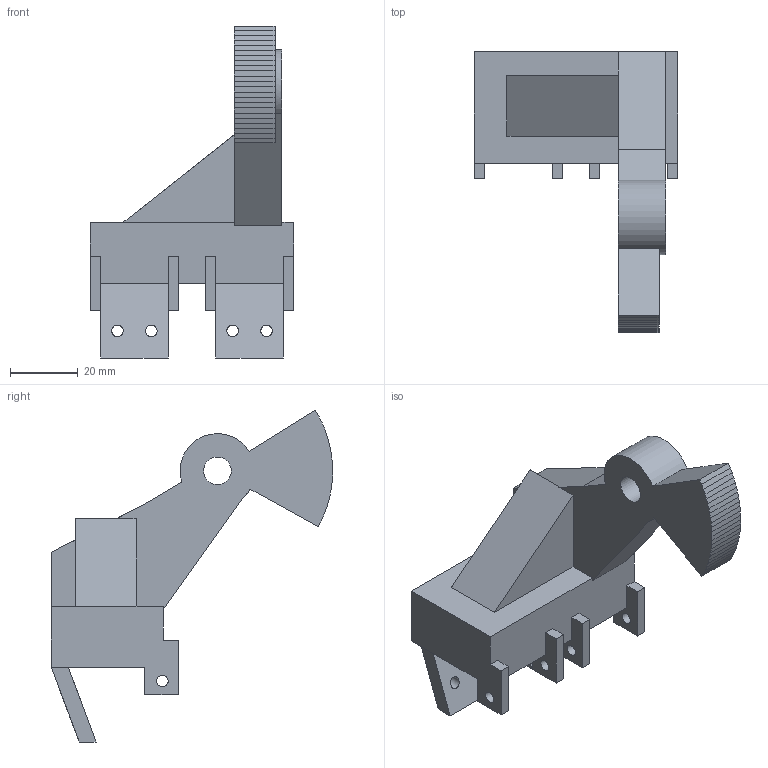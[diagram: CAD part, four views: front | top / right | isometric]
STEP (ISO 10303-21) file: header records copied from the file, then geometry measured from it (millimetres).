
FILE_DESCRIPTION(('Open CASCADE Model'),'2;1');
FILE_NAME('Open CASCADE Shape Model','2026-10-17T22:10:43',('Author'),( 'Open CASCADE'),'Open CASCADE STEP processor 7.9','Open CASCADE 7.9' ,'Unknown');
FILE_SCHEMA(('AUTOMOTIVE_DESIGN { 1 0 10303 214 1 1 1 1 }'));
Length unit declared in the file: millimetre
Products named in the file (1): Open CASCADE STEP translator 7.9 28
Bounding box: 60 x 83 x 97.98 mm (x, y, z)
Volume: 75792.2 mm3; surface area: 19199.4 mm2
Topology: 1 solids, 1 shells, 105 faces, 297 edges, 198 vertices
Faces by surface type: plane 91, cylinder 14
Full cylindrical faces by diameter (mm): 3.4 x8, 8.2 x1
Entity records: 7450 total; most frequent: CARTESIAN_POINT 1451, DIRECTION 1107, LINE 811, VECTOR 811, ORIENTED_EDGE 594, PCURVE 594, DEFINITIONAL_REPRESENTATION 594, EDGE_CURVE 297
